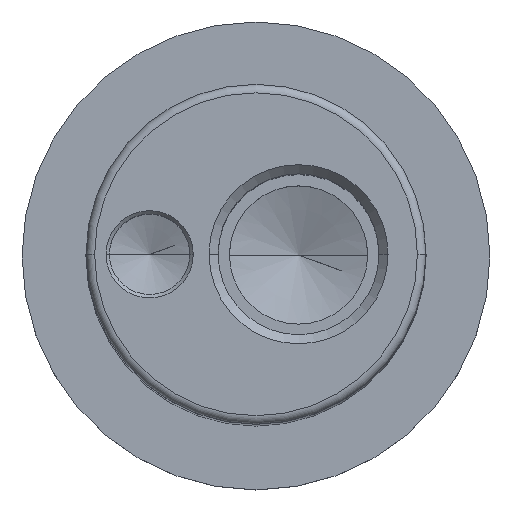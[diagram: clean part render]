
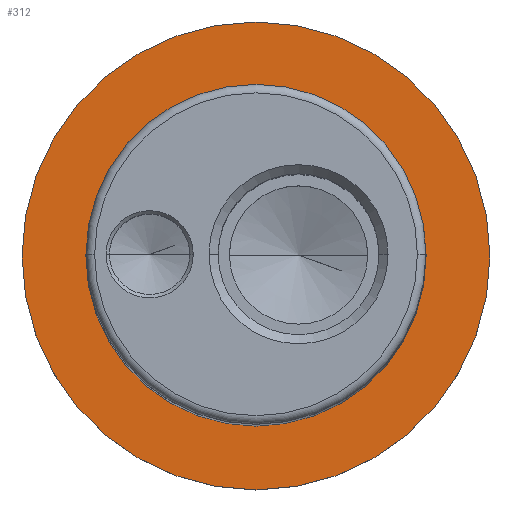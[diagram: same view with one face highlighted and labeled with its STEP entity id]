
A CAD part, top view. The second image highlights one B-rep face of the part: STEP entity #312.
In plain terms, the highlighted planar face has unit normal (0, 0, 1).
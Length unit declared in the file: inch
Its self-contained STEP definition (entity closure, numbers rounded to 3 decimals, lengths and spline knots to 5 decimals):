
#305 = ORIENTED_EDGE ( 'NONE', *, *, #341, .F. ) ;
#306 = VERTEX_POINT ( 'NONE', #1063 ) ;
#308 = ORIENTED_EDGE ( 'NONE', *, *, #405, .F. ) ;
#312 = ADVANCED_FACE ( 'NONE', ( #1075, #1093 ), #1101, .T. ) ;
#313 = EDGE_LOOP ( 'NONE', ( #329, #364 ) ) ;
#329 = ORIENTED_EDGE ( 'NONE', *, *, #377, .T. ) ;
#330 = VERTEX_POINT ( 'NONE', #1079 ) ;
#340 = VERTEX_POINT ( 'NONE', #1143 ) ;
#341 = EDGE_CURVE ( 'NONE', #306, #386, #1142, .T. ) ;
#364 = ORIENTED_EDGE ( 'NONE', *, *, #409, .T. ) ;
#367 = EDGE_LOOP ( 'NONE', ( #305, #308 ) ) ;
#377 = EDGE_CURVE ( 'NONE', #340, #330, #1175, .T. ) ;
#386 = VERTEX_POINT ( 'NONE', #1185 ) ;
#405 = EDGE_CURVE ( 'NONE', #386, #306, #1333, .T. ) ;
#409 = EDGE_CURVE ( 'NONE', #330, #340, #1299, .T. ) ;
#1011 = AXIS2_PLACEMENT_3D ( 'NONE', #1055, #1054, #1053 ) ;
#1053 = DIRECTION ( 'NONE',  ( 1., 0., 0. ) ) ;
#1054 = DIRECTION ( 'NONE',  ( 0., 0., 1. ) ) ;
#1055 = CARTESIAN_POINT ( 'NONE',  ( 0., 0., -2.875 ) ) ;
#1063 = CARTESIAN_POINT ( 'NONE',  ( -0.5, 0., -2.875 ) ) ;
#1075 = FACE_OUTER_BOUND ( 'NONE', #313, .T. ) ;
#1079 = CARTESIAN_POINT ( 'NONE',  ( 0.6875, 0., -2.875 ) ) ;
#1093 = FACE_BOUND ( 'NONE', #367, .T. ) ;
#1101 = PLANE ( 'NONE',  #1011 ) ;
#1121 = DIRECTION ( 'NONE',  ( 1., 0., 0. ) ) ;
#1122 = DIRECTION ( 'NONE',  ( 0., 0., 1. ) ) ;
#1123 = AXIS2_PLACEMENT_3D ( 'NONE', #1195, #1122, #1121 ) ;
#1127 = DIRECTION ( 'NONE',  ( 1., 0., 0. ) ) ;
#1128 = DIRECTION ( 'NONE',  ( 0., 0., 1. ) ) ;
#1129 = CARTESIAN_POINT ( 'NONE',  ( 0., 0., -2.875 ) ) ;
#1142 = CIRCLE ( 'NONE', #1205, 0.5 ) ;
#1143 = CARTESIAN_POINT ( 'NONE',  ( -0.6875, 0., -2.875 ) ) ;
#1175 = CIRCLE ( 'NONE', #1123, 0.6875 ) ;
#1185 = CARTESIAN_POINT ( 'NONE',  ( 0.5, 0., -2.875 ) ) ;
#1195 = CARTESIAN_POINT ( 'NONE',  ( 0., 0., -2.875 ) ) ;
#1205 = AXIS2_PLACEMENT_3D ( 'NONE', #1129, #1128, #1127 ) ;
#1299 = CIRCLE ( 'NONE', #1303, 0.6875 ) ;
#1302 = CARTESIAN_POINT ( 'NONE',  ( 0., 0., -2.875 ) ) ;
#1303 = AXIS2_PLACEMENT_3D ( 'NONE', #1302, #1328, #1327 ) ;
#1308 = DIRECTION ( 'NONE',  ( 0., 0., 1. ) ) ;
#1312 = CARTESIAN_POINT ( 'NONE',  ( 0., 0., -2.875 ) ) ;
#1313 = AXIS2_PLACEMENT_3D ( 'NONE', #1312, #1308, #1329 ) ;
#1327 = DIRECTION ( 'NONE',  ( 1., 0., 0. ) ) ;
#1328 = DIRECTION ( 'NONE',  ( 0., 0., 1. ) ) ;
#1329 = DIRECTION ( 'NONE',  ( 1., 0., 0. ) ) ;
#1333 = CIRCLE ( 'NONE', #1313, 0.5 ) ;
